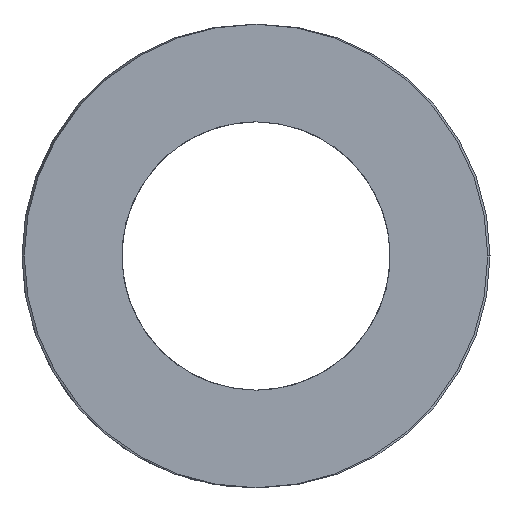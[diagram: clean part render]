
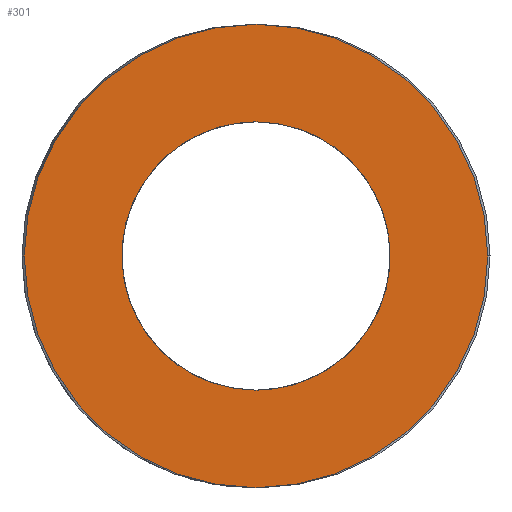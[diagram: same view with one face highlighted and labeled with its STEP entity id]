
A CAD part, left-side view. The second image highlights one B-rep face of the part: STEP entity #301.
In plain terms, the highlighted planar face has unit normal (-1, 0, 0).
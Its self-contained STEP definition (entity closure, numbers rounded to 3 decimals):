
#63=CARTESIAN_POINT('Vertex',(0.,7.6,0.)) ;
#77=CARTESIAN_POINT('Vertex',(0.,-7.6,0.)) ;
#80=CARTESIAN_POINT('Axis2P3D Location',(0.,0.,0.)) ;
#97=CARTESIAN_POINT('Axis2P3D Location',(0.,0.,0.)) ;
#232=CARTESIAN_POINT('Axis2P3D Location',(0.,3.8,0.)) ;
#242=CARTESIAN_POINT('Control Point',(0.,0.,-4.4)) ;
#243=CARTESIAN_POINT('Control Point',(0.,0.411,-4.4)) ;
#244=CARTESIAN_POINT('Control Point',(0.,0.822,-4.352)) ;
#245=CARTESIAN_POINT('Control Point',(0.,1.226,-4.256)) ;
#246=CARTESIAN_POINT('Control Point',(0.,2.003,-3.972)) ;
#247=CARTESIAN_POINT('Control Point',(0.,2.694,-3.516)) ;
#248=CARTESIAN_POINT('Control Point',(0.,3.011,-3.248)) ;
#249=CARTESIAN_POINT('Control Point',(0.,3.577,-2.644)) ;
#250=CARTESIAN_POINT('Control Point',(0.,3.988,-1.926)) ;
#251=CARTESIAN_POINT('Control Point',(0.,4.151,-1.544)) ;
#252=CARTESIAN_POINT('Control Point',(0.,4.384,-0.75)) ;
#253=CARTESIAN_POINT('Control Point',(0.,4.428,0.076)) ;
#254=CARTESIAN_POINT('Control Point',(0.,4.402,0.49)) ;
#255=CARTESIAN_POINT('Control Point',(0.,4.252,1.304)) ;
#256=CARTESIAN_POINT('Control Point',(0.,3.92,2.062)) ;
#257=CARTESIAN_POINT('Control Point',(0.,3.71,2.42)) ;
#258=CARTESIAN_POINT('Control Point',(0.,3.21,3.079)) ;
#259=CARTESIAN_POINT('Control Point',(0.,2.571,3.606)) ;
#260=CARTESIAN_POINT('Control Point',(0.,2.223,3.831)) ;
#261=CARTESIAN_POINT('Control Point',(0.,1.581,4.145)) ;
#262=CARTESIAN_POINT('Control Point',(0.,0.892,4.324)) ;
#263=CARTESIAN_POINT('Control Point',(0.,0.597,4.375)) ;
#264=CARTESIAN_POINT('Control Point',(0.,0.298,4.4)) ;
#265=CARTESIAN_POINT('Control Point',(0.,0.,4.4)) ;
#266=CARTESIAN_POINT('Vertex',(0.,0.,-4.4)) ;
#268=CARTESIAN_POINT('Vertex',(0.,0.,4.4)) ;
#272=CARTESIAN_POINT('Control Point',(0.,0.,4.4)) ;
#273=CARTESIAN_POINT('Control Point',(0.,-0.411,4.4)) ;
#274=CARTESIAN_POINT('Control Point',(0.,-0.822,4.352)) ;
#275=CARTESIAN_POINT('Control Point',(0.,-1.226,4.256)) ;
#276=CARTESIAN_POINT('Control Point',(0.,-2.003,3.972)) ;
#277=CARTESIAN_POINT('Control Point',(0.,-2.694,3.516)) ;
#278=CARTESIAN_POINT('Control Point',(0.,-3.011,3.248)) ;
#279=CARTESIAN_POINT('Control Point',(0.,-3.577,2.644)) ;
#280=CARTESIAN_POINT('Control Point',(0.,-3.988,1.926)) ;
#281=CARTESIAN_POINT('Control Point',(0.,-4.151,1.544)) ;
#282=CARTESIAN_POINT('Control Point',(0.,-4.384,0.75)) ;
#283=CARTESIAN_POINT('Control Point',(0.,-4.428,-0.076)) ;
#284=CARTESIAN_POINT('Control Point',(0.,-4.402,-0.49)) ;
#285=CARTESIAN_POINT('Control Point',(0.,-4.252,-1.304)) ;
#286=CARTESIAN_POINT('Control Point',(0.,-3.92,-2.062)) ;
#287=CARTESIAN_POINT('Control Point',(0.,-3.71,-2.42)) ;
#288=CARTESIAN_POINT('Control Point',(0.,-3.21,-3.079)) ;
#289=CARTESIAN_POINT('Control Point',(0.,-2.571,-3.606)) ;
#290=CARTESIAN_POINT('Control Point',(0.,-2.223,-3.831)) ;
#291=CARTESIAN_POINT('Control Point',(0.,-1.581,-4.145)) ;
#292=CARTESIAN_POINT('Control Point',(0.,-0.892,-4.324)) ;
#293=CARTESIAN_POINT('Control Point',(0.,-0.597,-4.375)) ;
#294=CARTESIAN_POINT('Control Point',(0.,-0.298,-4.4)) ;
#295=CARTESIAN_POINT('Control Point',(0.,0.,-4.4)) ;
#81=DIRECTION('Axis2P3D Direction',(1.,-0.,0.)) ;
#98=DIRECTION('Axis2P3D Direction',(1.,-0.,0.)) ;
#233=DIRECTION('Axis2P3D Direction',(-1.,0.,0.)) ;
#234=DIRECTION('Axis2P3D XDirection',(0.,1.,0.)) ;
#82=AXIS2_PLACEMENT_3D('Circle Axis2P3D',#80,#81,$) ;
#99=AXIS2_PLACEMENT_3D('Circle Axis2P3D',#97,#98,$) ;
#235=AXIS2_PLACEMENT_3D('Plane Axis2P3D',#232,#233,#234) ;
#238=ORIENTED_EDGE('',*,*,#84,.T.) ;
#239=ORIENTED_EDGE('',*,*,#101,.T.) ;
#298=ORIENTED_EDGE('',*,*,#270,.T.) ;
#299=ORIENTED_EDGE('',*,*,#296,.T.) ;
#300=FACE_BOUND('',#297,.T.) ;
#301=ADVANCED_FACE('392-B16-115',(#240,#300),#236,.T.) ;
#241=B_SPLINE_CURVE_WITH_KNOTS('',5,(#242,#243,#244,#245,#246,#247,#248,#249,#250,#251,#252,#253,#254,#255,#256,#257,#258,#259,#260,#261,#262,#263,#264,#265),.UNSPECIFIED.,.F.,.U.,(6,3,3,3,3,3,3,6),(0.,2.907,5.813,8.72,11.626,14.533,17.439,19.549),.UNSPECIFIED.) ;
#271=B_SPLINE_CURVE_WITH_KNOTS('',5,(#272,#273,#274,#275,#276,#277,#278,#279,#280,#281,#282,#283,#284,#285,#286,#287,#288,#289,#290,#291,#292,#293,#294,#295),.UNSPECIFIED.,.F.,.U.,(6,3,3,3,3,3,3,6),(0.,2.907,5.813,8.72,11.626,14.533,17.439,19.549),.UNSPECIFIED.) ;
#83=CIRCLE('generated circle',#82,7.6) ;
#100=CIRCLE('generated circle',#99,7.6) ;
#84=EDGE_CURVE('',#64,#78,#83,.F.) ;
#101=EDGE_CURVE('',#78,#64,#100,.F.) ;
#270=EDGE_CURVE('',#267,#269,#241,.T.) ;
#296=EDGE_CURVE('',#269,#267,#271,.T.) ;
#237=EDGE_LOOP('',(#238,#239)) ;
#297=EDGE_LOOP('',(#298,#299)) ;
#240=FACE_OUTER_BOUND('',#237,.T.) ;
#236=PLANE('Plane',#235) ;
#64=VERTEX_POINT('',#63) ;
#78=VERTEX_POINT('',#77) ;
#267=VERTEX_POINT('',#266) ;
#269=VERTEX_POINT('',#268) ;
